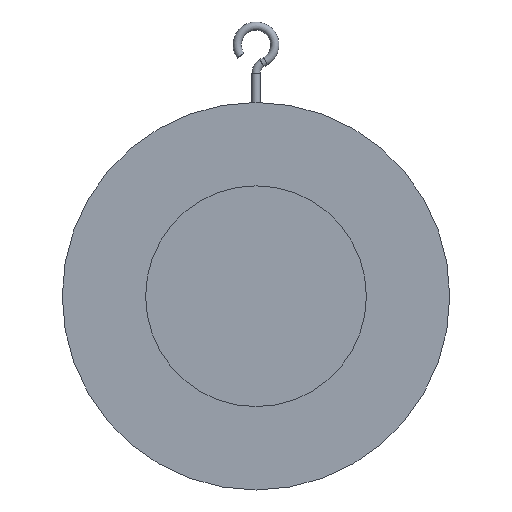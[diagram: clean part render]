
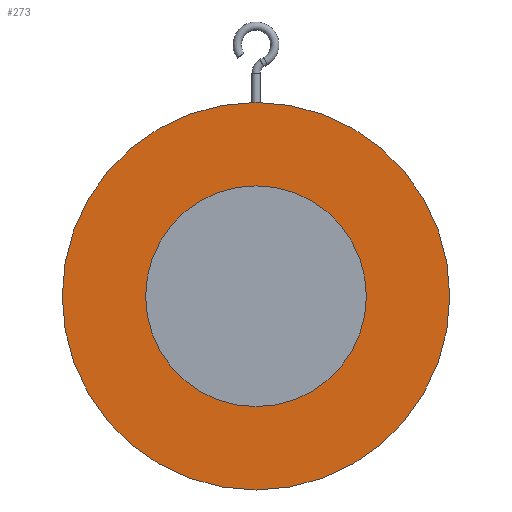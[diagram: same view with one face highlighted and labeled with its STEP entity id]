
A CAD part, front view. The second image highlights one B-rep face of the part: STEP entity #273.
In plain terms, the highlighted planar face has unit normal (0, -1, 0).
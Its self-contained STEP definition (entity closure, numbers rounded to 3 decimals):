
#273=ADVANCED_FACE('',(#525,#527),#529,.T.);
#525=FACE_BOUND('',#526,.T.);
#526=EDGE_LOOP('',(#702));
#527=FACE_BOUND('',#528,.T.);
#528=EDGE_LOOP('',(#703));
#529=PLANE('',#530);
#530=AXIS2_PLACEMENT_3D('',#531,#532,#533);
#531=CARTESIAN_POINT('',(0.,-14.,0.));
#532=DIRECTION('',(0.,-1.,0.));
#533=DIRECTION('',(0.,0.,1.));
#702=ORIENTED_EDGE('',*,*,#772,.F.);
#703=ORIENTED_EDGE('',*,*,#774,.T.);
#772=EDGE_CURVE('',#877,#877,#878,.T.);
#774=EDGE_CURVE('',#881,#881,#882,.T.);
#877=VERTEX_POINT('',#1402);
#878=CIRCLE('',#1403,165.);
#881=VERTEX_POINT('',#1412);
#882=CIRCLE('',#1413,94.);
#1402=CARTESIAN_POINT('',(0.,-14.,165.));
#1403=AXIS2_PLACEMENT_3D('',#1404,#1405,#1406);
#1404=CARTESIAN_POINT('',(0.,-14.,0.));
#1405=DIRECTION('',(0.,1.,0.));
#1406=DIRECTION('',(0.,0.,1.));
#1412=CARTESIAN_POINT('',(0.,-14.,94.));
#1413=AXIS2_PLACEMENT_3D('',#1414,#1415,#1416);
#1414=CARTESIAN_POINT('',(0.,-14.,0.));
#1415=DIRECTION('',(0.,1.,0.));
#1416=DIRECTION('',(0.,0.,1.));
